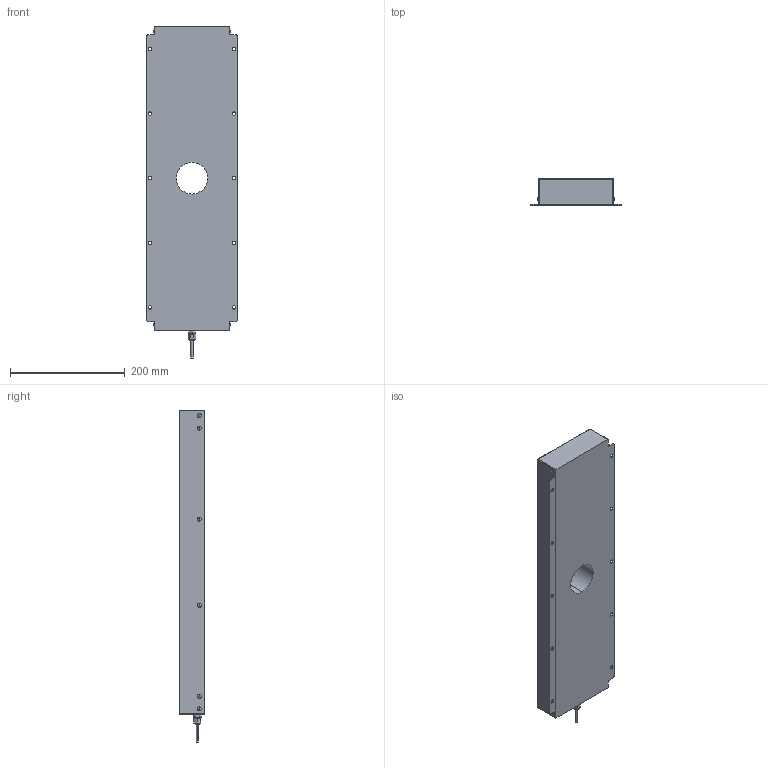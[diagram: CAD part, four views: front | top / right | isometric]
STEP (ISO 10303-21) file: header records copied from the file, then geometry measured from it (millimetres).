
FILE_DESCRIPTION (( 'STEP AP214' ), '1' );
FILE_NAME ('HDSBPA-500x100_-24-55D.STEP', '2023-06-01T07:24:29', ( '' ), ( '' ), 'SwSTEP 2.0', 'SolidWorks 2022', '' );
FILE_SCHEMA (( 'AUTOMOTIVE_DESIGN' ));
Length unit declared in the file: millimetre
Products named in the file (1): HDSBPA-500x100_-24-55D
Bounding box: 160 x 45 x 578 mm (x, y, z)
Volume: 2963188.7 mm3; surface area: 231500.8 mm2
Topology: 1 solids, 1 shells, 142 faces, 382 edges, 232 vertices
Faces by surface type: cylinder 64, plane 48, sphere 28, torus 2
Entity records: 4274 total; most frequent: DIRECTION 810, CARTESIAN_POINT 705, ORIENTED_EDGE 684, EDGE_CURVE 342, AXIS2_PLACEMENT_3D 325, VERTEX_POINT 220, EDGE_LOOP 182, CIRCLE 182
